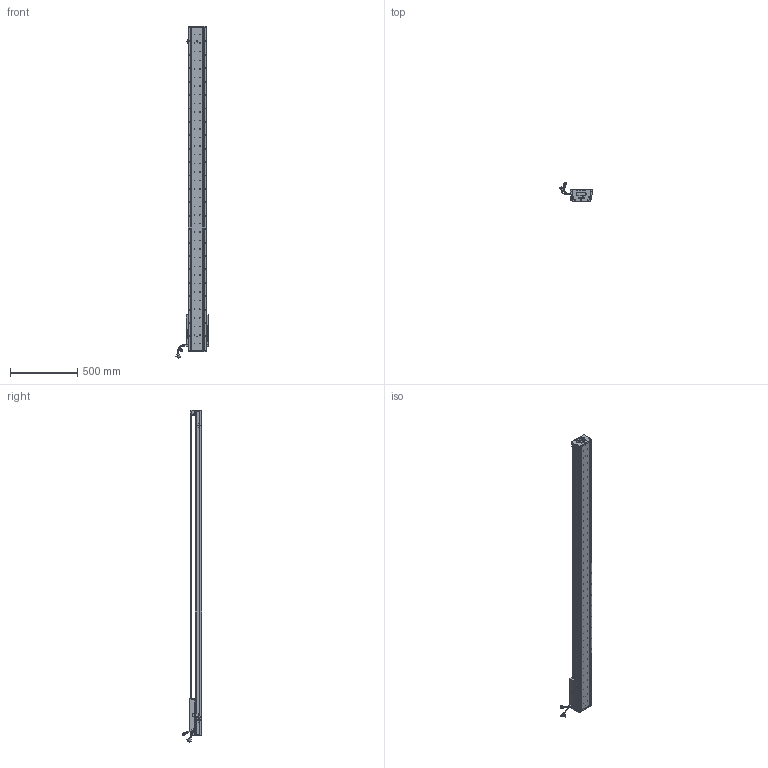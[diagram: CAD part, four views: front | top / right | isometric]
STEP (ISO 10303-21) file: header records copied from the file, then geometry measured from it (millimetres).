
FILE_DESCRIPTION (( 'STEP AP203' ), '1' );
FILE_NAME ('Z3-RY140D-1-L500-B-K.SLDASM_2100.step', '2021-05-17T08:03:54', ( '盈信电脑' ), ( '东莞市道滘镇水果街19号' ), 'SwSTEP 2.0', 'SolidWorks 2016', '' );
FILE_SCHEMA (( 'CONFIG_CONTROL_DESIGN' ));
Length unit declared in the file: millimetre
Products named in the file (36): SCREW-M1.6-1; COVER-Part-1; HARNESS-Part-2; Z-RY140詩湍狟揤裔; LABEL; 140蚥薯蝶輸; HARNESS; SCREW-M1.6-2; SCREW-M1.7-1; SHIELDPLATE; 080黍杅芛假蚾釱21遴; SCALE-Part-2; LABEL-Part-1; 140雄赽晤鎢ん堤盄; 覜茼ん672; SCREW-M1.6-3; Z-140詩湍傷裔啣; Z3-RY140-L500詩湍100mm遵_2100; SCALE; PSLH080_PSLF2; SCREW-M1.7; SCALE-Part-1; 榋妏寠巭燃_暯_M2_2; COVER; PBU_SHEET; HOLDER0; Z3-RY140D-1-L500-B-K.SLDASM_2100; SEAL; Z3-RY140-L500直线电机模组底座_2100; 140-Z-臏賑輸盄裔(21遴); HARNESS-Part-1; Z3-RY140圉猾敕臏賑輸(21遴); Z-RY140詩湍奻揤裔; SEAL-Part-1; Z-RY140感应器672光电感应片; SCREW-M1.6
Assembly tree (41 placements, depth 4):
  Z3-RY140D-1-L500-B-K.SLDASM_2100
    Z3-RY140-L500直线电机模组底座_2100
    Z-RY140感应器672光电感应片
    Z3-RY140圉猾敕臏賑輸(21遴)
    覜茼ん672  x3
    Z3-RY140-L500詩湍100mm遵_2100
    PSLH080_PSLF2
      SCALE
        SCALE-Part-1
        SCALE-Part-2
      HARNESS
        HARNESS-Part-1
        HARNESS-Part-2
      LABEL
        LABEL-Part-1
      COVER
        COVER-Part-1
      SEAL
        SEAL-Part-1
      榋妏寠巭燃_暯_M2_2
      SHIELDPLATE
      SCREW-M1.7
      SCREW-M1.7-1
      PBU_SHEET
      SCREW-M1.6
      SCREW-M1.6-1
      SCREW-M1.6-2
      SCREW-M1.6-3
      HOLDER0
    080黍杅芛假蚾釱21遴
    140-Z-臏賑輸盄裔(21遴)
    Z-140詩湍傷裔啣  x2
    Z-RY140詩湍狟揤裔  x2
    Z-RY140詩湍奻揤裔  x2
    140蚥薯蝶輸  x2
    140雄赽晤鎢ん堤盄
Bounding box: 239.84 x 143.88 x 2475.87 mm (x, y, z)
Volume: 8014600.4 mm3; surface area: 2084101.8 mm2
Topology: 36 solids, 36 shells, 3926 faces, 10634 edges, 6731 vertices
Faces by surface type: cylinder 2088, plane 1326, cone 390, torus 69, bspline 53
Entity records: 123222 total; most frequent: CARTESIAN_POINT 34283, ORIENTED_EDGE 18212, DIRECTION 17034, EDGE_CURVE 9106, AXIS2_PLACEMENT_3D 6330, VERTEX_POINT 5899, LINE 4374, VECTOR 4374
